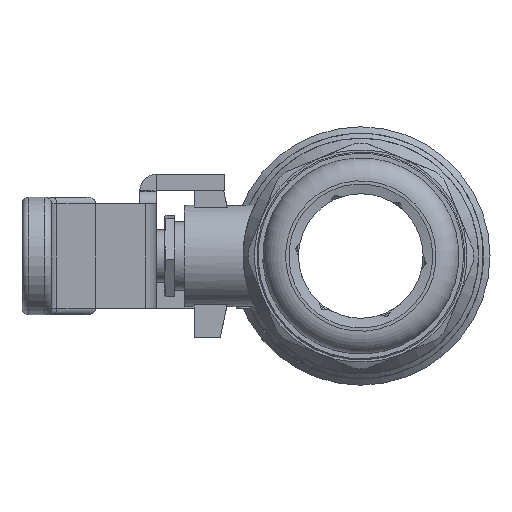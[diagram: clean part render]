
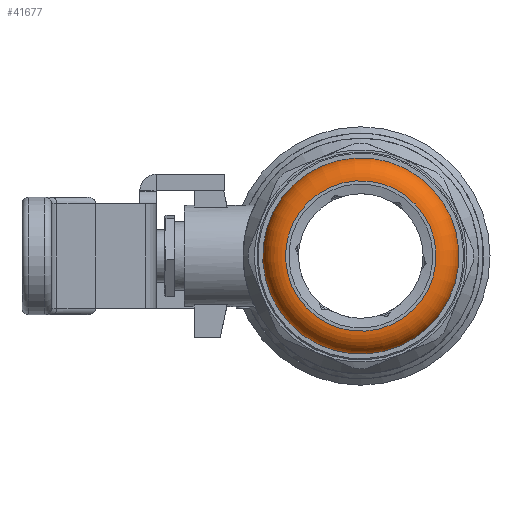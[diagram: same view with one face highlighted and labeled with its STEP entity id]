
A CAD part, left-side view. The second image highlights one B-rep face of the part: STEP entity #41677.
In plain terms, the highlighted toroidal (fillet/blend) face has major radius 11.5 mm and minor radius 3.5 mm.
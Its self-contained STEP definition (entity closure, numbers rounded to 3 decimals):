
#41387=CARTESIAN_POINT('',(-58.8,6.802,-9.273));
#41388=VERTEX_POINT('',#41387);
#41389=CARTESIAN_POINT('',(-58.8,0.0,0.0));
#41390=DIRECTION('',(1.,0.,0.));
#41391=DIRECTION('',(0.,0.591,-0.806));
#41392=AXIS2_PLACEMENT_3D('',#41389,#41390,#41391);
#41393=CIRCLE('',#41392,11.5);
#41394=EDGE_CURVE('',#41388,#41388,#41393,.T.);
#41654=CARTESIAN_POINT('',(-53.55,8.594,-11.717));
#41655=VERTEX_POINT('',#41654);
#41656=CARTESIAN_POINT('',(-53.55,0.0,0.0));
#41657=DIRECTION('',(1.0,0.,0.));
#41658=DIRECTION('',(0.,0.591,-0.806));
#41659=AXIS2_PLACEMENT_3D('',#41656,#41657,#41658);
#41660=CIRCLE('',#41659,14.531);
#41661=EDGE_CURVE('',#41655,#41655,#41660,.T.);
#41666=CARTESIAN_POINT('',(-55.3,0.,0.));
#41667=DIRECTION('',(1.0,0.,0.));
#41668=DIRECTION('',(0.,-0.806,-0.591));
#41669=AXIS2_PLACEMENT_3D('',#41666,#41667,#41668);
#41670=TOROIDAL_SURFACE('',#41669,11.5,3.5);
#41671=ORIENTED_EDGE('',*,*,#41394,.T.);
#41672=EDGE_LOOP('',(#41671));
#41673=FACE_OUTER_BOUND('',#41672,.T.);
#41674=ORIENTED_EDGE('',*,*,#41661,.F.);
#41675=EDGE_LOOP('',(#41674));
#41676=FACE_BOUND('',#41675,.T.);
#41677=ADVANCED_FACE('',(#41673,#41676),#41670,.T.);
